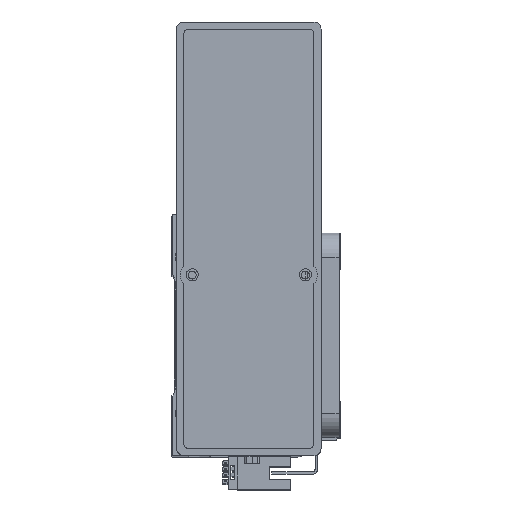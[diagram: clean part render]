
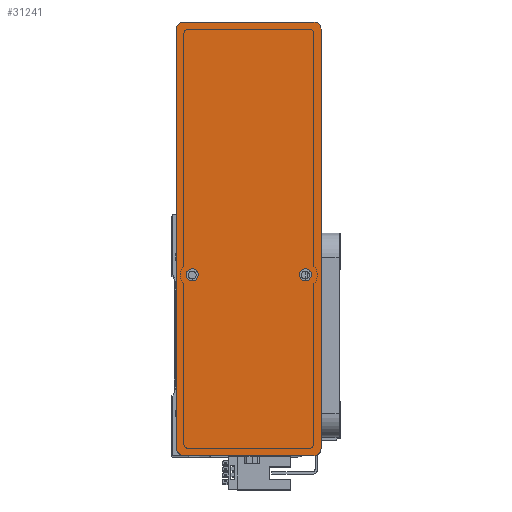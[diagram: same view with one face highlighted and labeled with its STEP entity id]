
A CAD part, top view. The second image highlights one B-rep face of the part: STEP entity #31241.
In plain terms, the highlighted planar face has unit normal (0, 0, 1) as drawn and (0, 0, -1) by its records, which use the part's own axes.
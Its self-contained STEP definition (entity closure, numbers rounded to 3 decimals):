
#1155 = CARTESIAN_POINT ( 'NONE',  ( -12.5, 23.5, 0. ) ) ;
#1377 = EDGE_CURVE ( 'NONE', #48044, #39343, #23199, .T. ) ;
#2852 = EDGE_CURVE ( 'NONE', #26858, #27695, #36149, .T. ) ;
#3452 = CARTESIAN_POINT ( 'NONE',  ( -17.5, -23.5, 0. ) ) ;
#4356 = FACE_BOUND ( 'NONE', #11124, .T. ) ;
#4450 = EDGE_CURVE ( 'NONE', #53264, #51389, #38593, .T. ) ;
#5931 = LINE ( 'NONE', #35307, #32427 ) ;
#6926 = AXIS2_PLACEMENT_3D ( 'NONE', #49338, #23990, #53580 ) ;
#6932 = VECTOR ( 'NONE', #28899, 1000. ) ;
#7106 = AXIS2_PLACEMENT_3D ( 'NONE', #8691, #38343, #12966 ) ;
#7326 = ORIENTED_EDGE ( 'NONE', *, *, #19400, .F. ) ;
#8445 = CARTESIAN_POINT ( 'NONE',  ( -12.5, -23.5, 0. ) ) ;
#8691 = CARTESIAN_POINT ( 'NONE',  ( -15., 23.5, 0. ) ) ;
#8930 = CARTESIAN_POINT ( 'NONE',  ( -90., 27., 0. ) ) ;
#9452 = DIRECTION ( 'NONE',  ( 1., 0., 0. ) ) ;
#9758 = CARTESIAN_POINT ( 'NONE',  ( -15., 23.5, 0. ) ) ;
#9958 = DIRECTION ( 'NONE',  ( -1., 0., 0. ) ) ;
#10424 = CARTESIAN_POINT ( 'NONE',  ( 87., -30., 0. ) ) ;
#11124 = EDGE_LOOP ( 'NONE', ( #17537, #30573 ) ) ;
#11201 = DIRECTION ( 'NONE',  ( 0., 0., -1. ) ) ;
#12035 = ORIENTED_EDGE ( 'NONE', *, *, #16453, .T. ) ;
#12966 = DIRECTION ( 'NONE',  ( -1., 0., 0. ) ) ;
#13778 = AXIS2_PLACEMENT_3D ( 'NONE', #21906, #51465, #26158 ) ;
#14048 = DIRECTION ( 'NONE',  ( -1., 0., 0. ) ) ;
#14581 = EDGE_CURVE ( 'NONE', #48072, #43383, #38579, .T. ) ;
#16079 = CARTESIAN_POINT ( 'NONE',  ( -15., -23.5, 0. ) ) ;
#16453 = EDGE_CURVE ( 'NONE', #28396, #33565, #51169, .T. ) ;
#17242 = EDGE_CURVE ( 'NONE', #39343, #48044, #53697, .T. ) ;
#17537 = ORIENTED_EDGE ( 'NONE', *, *, #30103, .F. ) ;
#17763 = DIRECTION ( 'NONE',  ( 0., 0., -1. ) ) ;
#18434 = CIRCLE ( 'NONE', #36867, 3. ) ;
#18527 = DIRECTION ( 'NONE',  ( 0., 1., 0. ) ) ;
#18681 = DIRECTION ( 'NONE',  ( 0., 0., -1. ) ) ;
#19026 = EDGE_CURVE ( 'NONE', #40563, #51435, #18434, .T. ) ;
#19400 = EDGE_CURVE ( 'NONE', #48072, #27695, #35550, .T. ) ;
#19507 = LINE ( 'NONE', #37255, #6932 ) ;
#20333 = DIRECTION ( 'NONE',  ( -1., 0., 0. ) ) ;
#21906 = CARTESIAN_POINT ( 'NONE',  ( 87., 27., 0. ) ) ;
#22063 = PLANE ( 'NONE',  #40610 ) ;
#23199 = CIRCLE ( 'NONE', #54786, 2.5 ) ;
#23990 = DIRECTION ( 'NONE',  ( 0., 0., -1. ) ) ;
#25255 = CARTESIAN_POINT ( 'NONE',  ( -17.5, 23.5, 0. ) ) ;
#26158 = DIRECTION ( 'NONE',  ( 1., 0., 0. ) ) ;
#26858 = VERTEX_POINT ( 'NONE', #27778 ) ;
#27695 = VERTEX_POINT ( 'NONE', #30252 ) ;
#27778 = CARTESIAN_POINT ( 'NONE',  ( 87., 30., 0. ) ) ;
#28396 = VERTEX_POINT ( 'NONE', #48466 ) ;
#28540 = ORIENTED_EDGE ( 'NONE', *, *, #1377, .F. ) ;
#28899 = DIRECTION ( 'NONE',  ( 0., -1., 0. ) ) ;
#29102 = VECTOR ( 'NONE', #40521, 1000. ) ;
#29983 = CARTESIAN_POINT ( 'NONE',  ( -90., -27., 0. ) ) ;
#30103 = EDGE_CURVE ( 'NONE', #51389, #53264, #54853, .T. ) ;
#30252 = CARTESIAN_POINT ( 'NONE',  ( 90., 27., 0. ) ) ;
#30278 = EDGE_CURVE ( 'NONE', #26858, #51435, #5931, .T. ) ;
#30389 = CARTESIAN_POINT ( 'NONE',  ( 0., 0., 0. ) ) ;
#30573 = ORIENTED_EDGE ( 'NONE', *, *, #4450, .F. ) ;
#31040 = ORIENTED_EDGE ( 'NONE', *, *, #19026, .T. ) ;
#31241 = ADVANCED_FACE ( 'NONE', ( #4356, #49352, #48002 ), #22063, .F. ) ;
#31620 = ORIENTED_EDGE ( 'NONE', *, *, #14581, .T. ) ;
#32427 = VECTOR ( 'NONE', #9958, 1000. ) ;
#33565 = VERTEX_POINT ( 'NONE', #29983 ) ;
#34829 = DIRECTION ( 'NONE',  ( 0., 0., 1. ) ) ;
#35307 = CARTESIAN_POINT ( 'NONE',  ( 90., 30., 0. ) ) ;
#35550 = LINE ( 'NONE', #48140, #36903 ) ;
#36149 = CIRCLE ( 'NONE', #13778, 3. ) ;
#36309 = CARTESIAN_POINT ( 'NONE',  ( 90., -30., 0. ) ) ;
#36568 = CARTESIAN_POINT ( 'NONE',  ( -87., 27., 0. ) ) ;
#36867 = AXIS2_PLACEMENT_3D ( 'NONE', #36568, #11201, #40794 ) ;
#36903 = VECTOR ( 'NONE', #18527, 1000. ) ;
#37255 = CARTESIAN_POINT ( 'NONE',  ( -90., -30., 0. ) ) ;
#38239 = CARTESIAN_POINT ( 'NONE',  ( -87., 30., 0. ) ) ;
#38343 = DIRECTION ( 'NONE',  ( 0., 0., -1. ) ) ;
#38579 = CIRCLE ( 'NONE', #46484, 3. ) ;
#38593 = CIRCLE ( 'NONE', #48937, 2.5 ) ;
#39343 = VERTEX_POINT ( 'NONE', #8445 ) ;
#39401 = DIRECTION ( 'NONE',  ( 0., 0., -1. ) ) ;
#40521 = DIRECTION ( 'NONE',  ( 1., 0., 0. ) ) ;
#40563 = VERTEX_POINT ( 'NONE', #8930 ) ;
#40610 = AXIS2_PLACEMENT_3D ( 'NONE', #30389, #34829, #9452 ) ;
#40794 = DIRECTION ( 'NONE',  ( 1., 0., 0. ) ) ;
#41542 = CARTESIAN_POINT ( 'NONE',  ( 90., -27., 0. ) ) ;
#43111 = CARTESIAN_POINT ( 'NONE',  ( 87., -27., 0. ) ) ;
#43383 = VERTEX_POINT ( 'NONE', #10424 ) ;
#43396 = AXIS2_PLACEMENT_3D ( 'NONE', #44049, #18681, #48290 ) ;
#43828 = ORIENTED_EDGE ( 'NONE', *, *, #45404, .F. ) ;
#44049 = CARTESIAN_POINT ( 'NONE',  ( -87., -27., 0. ) ) ;
#45404 = EDGE_CURVE ( 'NONE', #28396, #43383, #52919, .T. ) ;
#45670 = DIRECTION ( 'NONE',  ( 0., 0., -1. ) ) ;
#46484 = AXIS2_PLACEMENT_3D ( 'NONE', #43111, #17763, #47379 ) ;
#47379 = DIRECTION ( 'NONE',  ( 1., 0., 0. ) ) ;
#48002 = FACE_OUTER_BOUND ( 'NONE', #53700, .T. ) ;
#48044 = VERTEX_POINT ( 'NONE', #3452 ) ;
#48072 = VERTEX_POINT ( 'NONE', #41542 ) ;
#48140 = CARTESIAN_POINT ( 'NONE',  ( 90., -30., 0. ) ) ;
#48290 = DIRECTION ( 'NONE',  ( 1., 0., 0. ) ) ;
#48466 = CARTESIAN_POINT ( 'NONE',  ( -87., -30., 0. ) ) ;
#48937 = AXIS2_PLACEMENT_3D ( 'NONE', #9758, #39401, #14048 ) ;
#49338 = CARTESIAN_POINT ( 'NONE',  ( -15., -23.5, 0. ) ) ;
#49352 = FACE_BOUND ( 'NONE', #49957, .T. ) ;
#49957 = EDGE_LOOP ( 'NONE', ( #28540, #53422 ) ) ;
#50382 = EDGE_CURVE ( 'NONE', #40563, #33565, #19507, .T. ) ;
#51169 = CIRCLE ( 'NONE', #43396, 3. ) ;
#51389 = VERTEX_POINT ( 'NONE', #25255 ) ;
#51435 = VERTEX_POINT ( 'NONE', #38239 ) ;
#51465 = DIRECTION ( 'NONE',  ( 0., 0., -1. ) ) ;
#51470 = ORIENTED_EDGE ( 'NONE', *, *, #30278, .F. ) ;
#52635 = ORIENTED_EDGE ( 'NONE', *, *, #50382, .F. ) ;
#52919 = LINE ( 'NONE', #36309, #29102 ) ;
#53264 = VERTEX_POINT ( 'NONE', #1155 ) ;
#53422 = ORIENTED_EDGE ( 'NONE', *, *, #17242, .F. ) ;
#53580 = DIRECTION ( 'NONE',  ( -1., 0., 0. ) ) ;
#53697 = CIRCLE ( 'NONE', #6926, 2.5 ) ;
#53700 = EDGE_LOOP ( 'NONE', ( #7326, #31620, #43828, #12035, #52635, #31040, #51470, #53935 ) ) ;
#53935 = ORIENTED_EDGE ( 'NONE', *, *, #2852, .T. ) ;
#54786 = AXIS2_PLACEMENT_3D ( 'NONE', #16079, #45670, #20333 ) ;
#54853 = CIRCLE ( 'NONE', #7106, 2.5 ) ;
